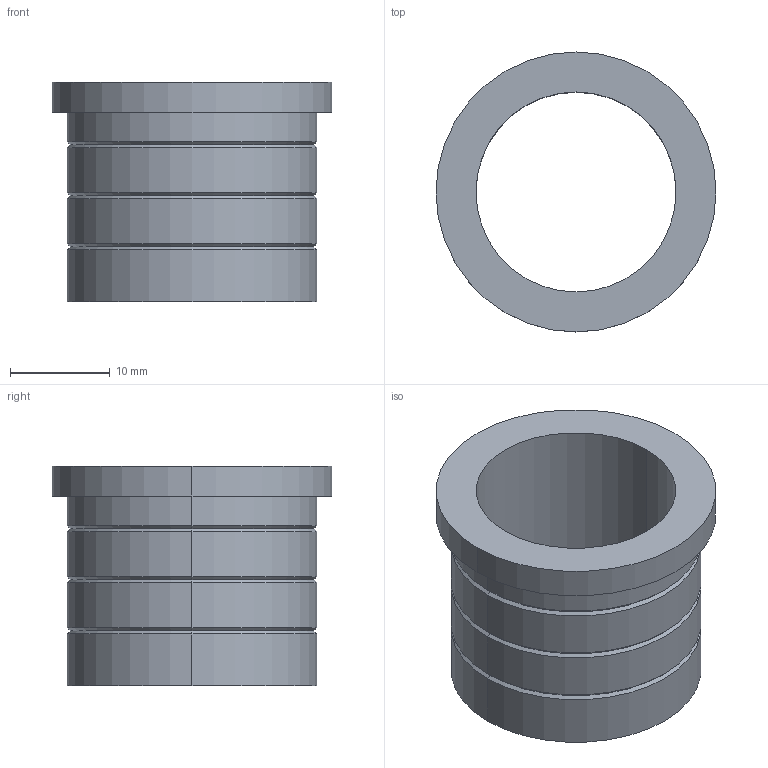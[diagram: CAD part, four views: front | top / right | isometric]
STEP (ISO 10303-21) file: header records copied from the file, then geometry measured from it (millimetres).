
FILE_DESCRIPTION(/* description */ (''),/* implementation_level */ '2;1');
FILE_NAME(/* name */ '3d_sgbt20-22_00018_r00.stp',/* time_stamp */ '2011-01-10T14:11:12+09:00',/* author */ ('MISUMI'),/* organization */ (''),/* preprocessor_version */ 'ST-DEVELOPER v11',/* originating_system */ 'UGS - NX 5.0',/* authorisation */ '');
FILE_SCHEMA (('CONFIG_CONTROL_DESIGN'));
Length unit declared in the file: millimetre
Products named in the file (1): 3d_sgbt20-22_00018_r00
Bounding box: 28 x 28 x 22 mm (x, y, z)
Volume: 4241.3 mm3; surface area: 3797.8 mm2
Topology: 1 solids, 1 shells, 27 faces, 54 edges, 30 vertices
Faces by surface type: cylinder 12, cone 12, plane 3
Entity records: 784 total; most frequent: DIRECTION 140, CARTESIAN_POINT 112, ORIENTED_EDGE 108, AXIS2_PLACEMENT_3D 58, EDGE_CURVE 54, EDGE_LOOP 30, VERTEX_POINT 30, CIRCLE 30
